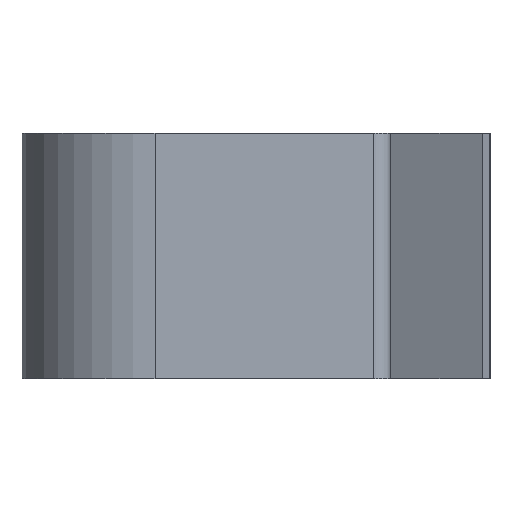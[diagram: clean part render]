
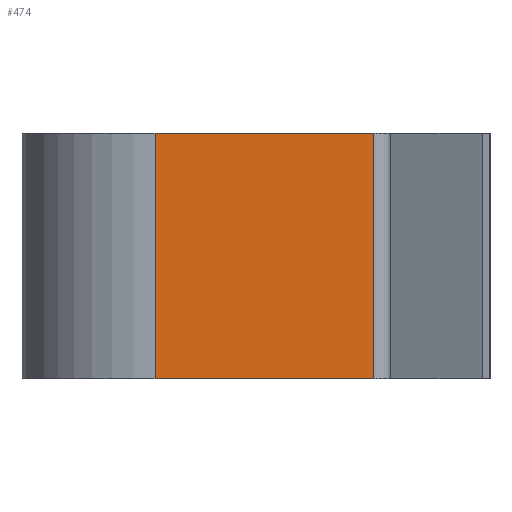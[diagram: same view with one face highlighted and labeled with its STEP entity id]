
A CAD part, left-side view. The second image highlights one B-rep face of the part: STEP entity #474.
In plain terms, the highlighted planar face has unit normal (-1, 0, 0).
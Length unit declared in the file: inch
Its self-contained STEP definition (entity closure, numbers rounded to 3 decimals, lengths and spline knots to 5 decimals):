
#4 = AXIS2_PLACEMENT_3D ( 'NONE', #680, #1022, #275 ) ;
#66 = VECTOR ( 'NONE', #351, 39.37008 ) ;
#70 = LINE ( 'NONE', #150, #96 ) ;
#96 = VECTOR ( 'NONE', #1056, 39.37008 ) ;
#101 = DIRECTION ( 'NONE',  ( 0., 1., 0. ) ) ;
#121 = ORIENTED_EDGE ( 'NONE', *, *, #674, .F. ) ;
#150 = CARTESIAN_POINT ( 'NONE',  ( -0.6063, -0.53828, 0. ) ) ;
#181 = LINE ( 'NONE', #832, #1018 ) ;
#212 = PLANE ( 'NONE',  #4 ) ;
#239 = CARTESIAN_POINT ( 'NONE',  ( -0.6063, -0.53834, -0.25591 ) ) ;
#257 = LINE ( 'NONE', #924, #1039 ) ;
#262 = VERTEX_POINT ( 'NONE', #835 ) ;
#275 = DIRECTION ( 'NONE',  ( 0., 1., 0. ) ) ;
#291 = ORIENTED_EDGE ( 'NONE', *, *, #467, .F. ) ;
#351 = DIRECTION ( 'NONE',  ( 0., 0., 1. ) ) ;
#362 = EDGE_LOOP ( 'NONE', ( #440, #291, #121, #730 ) ) ;
#365 = LINE ( 'NONE', #860, #66 ) ;
#418 = VERTEX_POINT ( 'NONE', #1037 ) ;
#440 = ORIENTED_EDGE ( 'NONE', *, *, #859, .T. ) ;
#467 = EDGE_CURVE ( 'NONE', #939, #262, #365, .T. ) ;
#474 = ADVANCED_FACE ( 'NONE', ( #517 ), #212, .F. ) ;
#504 = DIRECTION ( 'NONE',  ( 0., 0., 1. ) ) ;
#517 = FACE_OUTER_BOUND ( 'NONE', #362, .T. ) ;
#669 = EDGE_CURVE ( 'NONE', #418, #964, #257, .T. ) ;
#674 = EDGE_CURVE ( 'NONE', #418, #939, #181, .T. ) ;
#680 = CARTESIAN_POINT ( 'NONE',  ( -0.6063, -0.53828, -0.25591 ) ) ;
#730 = ORIENTED_EDGE ( 'NONE', *, *, #669, .T. ) ;
#832 = CARTESIAN_POINT ( 'NONE',  ( -0.6063, -0.53828, -0.25591 ) ) ;
#835 = CARTESIAN_POINT ( 'NONE',  ( -0.6063, -0.53834, 0. ) ) ;
#859 = EDGE_CURVE ( 'NONE', #964, #262, #70, .T. ) ;
#860 = CARTESIAN_POINT ( 'NONE',  ( -0.6063, -0.53834, -0.25591 ) ) ;
#924 = CARTESIAN_POINT ( 'NONE',  ( -0.6063, -0.76575, -0.25591 ) ) ;
#939 = VERTEX_POINT ( 'NONE', #239 ) ;
#964 = VERTEX_POINT ( 'NONE', #997 ) ;
#997 = CARTESIAN_POINT ( 'NONE',  ( -0.6063, -0.76575, 0. ) ) ;
#1018 = VECTOR ( 'NONE', #101, 39.37008 ) ;
#1022 = DIRECTION ( 'NONE',  ( 1., 0., 0. ) ) ;
#1037 = CARTESIAN_POINT ( 'NONE',  ( -0.6063, -0.76575, -0.25591 ) ) ;
#1039 = VECTOR ( 'NONE', #504, 39.37008 ) ;
#1056 = DIRECTION ( 'NONE',  ( 0., 1., 0. ) ) ;
